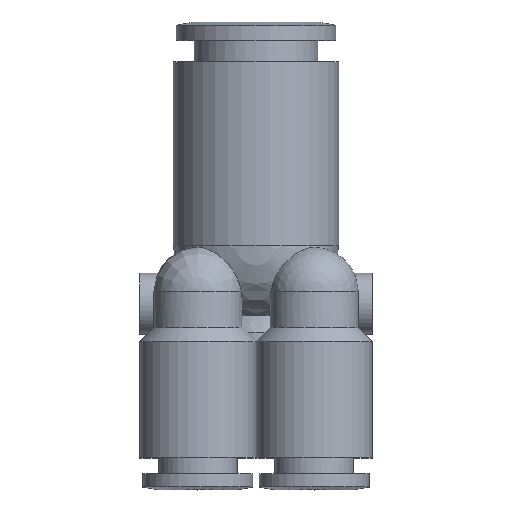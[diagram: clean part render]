
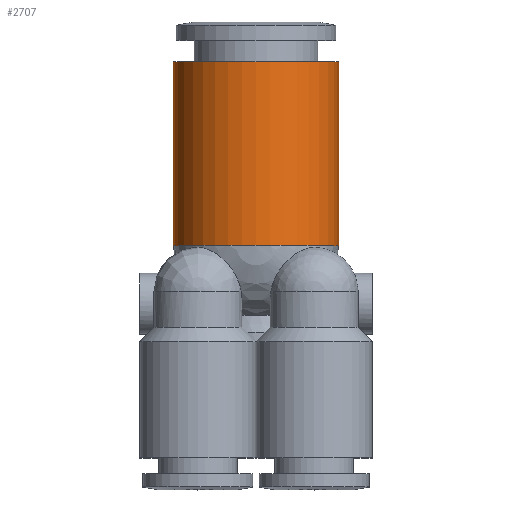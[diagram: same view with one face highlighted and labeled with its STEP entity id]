
A CAD part, top view. The second image highlights one B-rep face of the part: STEP entity #2707.
In plain terms, the highlighted cylindrical face has radius 6.75 mm (diameter 13.5 mm), a full revolution.
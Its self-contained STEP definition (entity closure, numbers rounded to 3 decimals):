
#2048=CARTESIAN_POINT('',(-6.75,6.75,0.0));
#2049=VERTEX_POINT('',#2048);
#2050=CARTESIAN_POINT('',(0.,6.75,6.75));
#2051=VERTEX_POINT('',#2050);
#2052=CARTESIAN_POINT('',(0.0,6.75,0.0));
#2053=DIRECTION('',(0.0,1.0,0.0));
#2054=DIRECTION('',(-1.0,0.0,0.0));
#2055=AXIS2_PLACEMENT_3D('',#2052,#2053,#2054);
#2056=CIRCLE('',#2055,6.75);
#2057=EDGE_CURVE('',#2049,#2051,#2056,.T.);
#2059=CARTESIAN_POINT('',(0.,6.75,-6.75));
#2060=VERTEX_POINT('',#2059);
#2061=CARTESIAN_POINT('',(0.0,6.75,0.0));
#2062=DIRECTION('',(0.0,1.0,0.0));
#2063=DIRECTION('',(-1.0,0.0,0.0));
#2064=AXIS2_PLACEMENT_3D('',#2061,#2062,#2063);
#2065=CIRCLE('',#2064,6.75);
#2066=EDGE_CURVE('',#2060,#2049,#2065,.T.);
#2068=CARTESIAN_POINT('',(0.0,6.75,0.0));
#2069=DIRECTION('',(0.0,1.0,0.0));
#2070=DIRECTION('',(-1.0,0.0,0.0));
#2071=AXIS2_PLACEMENT_3D('',#2068,#2069,#2070);
#2072=CIRCLE('',#2071,6.75);
#2073=EDGE_CURVE('',#2051,#2060,#2072,.T.);
#2686=CARTESIAN_POINT('',(0.0,15.75,0.0));
#2687=DIRECTION('',(0.0,1.0,0.0));
#2688=DIRECTION('',(-1.0,0.0,0.0));
#2689=AXIS2_PLACEMENT_3D('',#2686,#2687,#2688);
#2690=CYLINDRICAL_SURFACE('',#2689,6.75);
#2691=ORIENTED_EDGE('',*,*,#2057,.T.);
#2692=ORIENTED_EDGE('',*,*,#2073,.T.);
#2693=ORIENTED_EDGE('',*,*,#2066,.T.);
#2694=EDGE_LOOP('',(#2691,#2692,#2693));
#2695=FACE_OUTER_BOUND('',#2694,.T.);
#2696=CARTESIAN_POINT('',(-6.75,21.75,0.0));
#2697=VERTEX_POINT('',#2696);
#2698=CARTESIAN_POINT('',(0.0,21.75,0.0));
#2699=DIRECTION('',(0.0,1.0,0.0));
#2700=DIRECTION('',(-1.0,0.0,0.0));
#2701=AXIS2_PLACEMENT_3D('',#2698,#2699,#2700);
#2702=CIRCLE('',#2701,6.75);
#2703=EDGE_CURVE('',#2697,#2697,#2702,.T.);
#2704=ORIENTED_EDGE('',*,*,#2703,.F.);
#2705=EDGE_LOOP('',(#2704));
#2706=FACE_BOUND('',#2705,.T.);
#2707=ADVANCED_FACE('',(#2695,#2706),#2690,.T.);
